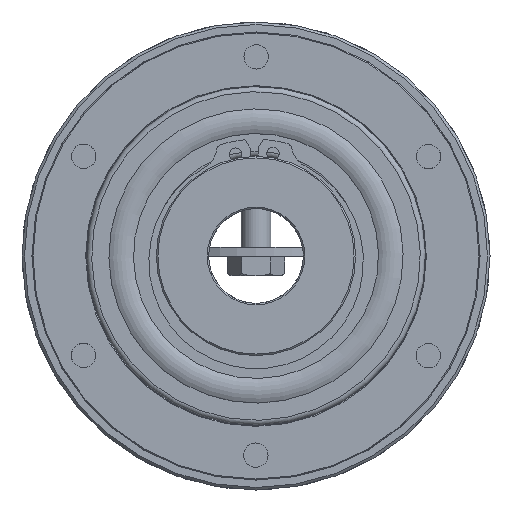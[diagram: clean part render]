
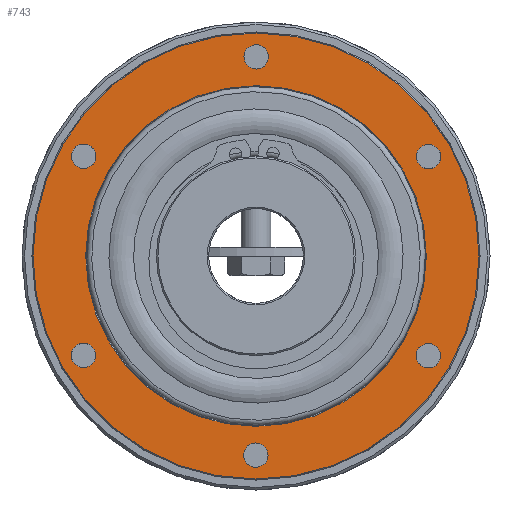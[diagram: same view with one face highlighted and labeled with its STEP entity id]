
A CAD part, left-side view. The second image highlights one B-rep face of the part: STEP entity #743.
In plain terms, the highlighted planar face has unit normal (-1, 0, 0).
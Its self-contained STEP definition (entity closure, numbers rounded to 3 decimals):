
#743 = ADVANCED_FACE( '', ( #1302, #1303, #1304, #1305, #1306, #1307, #1308, #1309 ), #1310, .F. );
#1302 = FACE_OUTER_BOUND( '', #1800, .T. );
#1303 = FACE_BOUND( '', #1801, .T. );
#1304 = FACE_BOUND( '', #1802, .T. );
#1305 = FACE_BOUND( '', #1803, .T. );
#1306 = FACE_BOUND( '', #1804, .T. );
#1307 = FACE_BOUND( '', #1805, .T. );
#1308 = FACE_BOUND( '', #1806, .T. );
#1309 = FACE_BOUND( '', #1807, .T. );
#1310 = PLANE( '', #1808 );
#1800 = EDGE_LOOP( '', ( #2812 ) );
#1801 = EDGE_LOOP( '', ( #2813 ) );
#1802 = EDGE_LOOP( '', ( #2814 ) );
#1803 = EDGE_LOOP( '', ( #2815 ) );
#1804 = EDGE_LOOP( '', ( #2816 ) );
#1805 = EDGE_LOOP( '', ( #2817 ) );
#1806 = EDGE_LOOP( '', ( #2818 ) );
#1807 = EDGE_LOOP( '', ( #2819 ) );
#1808 = AXIS2_PLACEMENT_3D( '', #2820, #2821, #2822 );
#2812 = ORIENTED_EDGE( '', *, *, #3566, .T. );
#2813 = ORIENTED_EDGE( '', *, *, #3567, .T. );
#2814 = ORIENTED_EDGE( '', *, *, #3568, .T. );
#2815 = ORIENTED_EDGE( '', *, *, #3569, .T. );
#2816 = ORIENTED_EDGE( '', *, *, #3570, .T. );
#2817 = ORIENTED_EDGE( '', *, *, #3571, .T. );
#2818 = ORIENTED_EDGE( '', *, *, #3572, .T. );
#2819 = ORIENTED_EDGE( '', *, *, #3573, .T. );
#2820 = CARTESIAN_POINT( '', ( -14.95, 45., 0. ) );
#2821 = DIRECTION( '', ( 1., 0., 0. ) );
#2822 = DIRECTION( '', ( 0., 1., 0. ) );
#3566 = EDGE_CURVE( '', #4054, #4054, #4055, .T. );
#3567 = EDGE_CURVE( '', #4056, #4056, #4057, .T. );
#3568 = EDGE_CURVE( '', #4058, #4058, #4059, .T. );
#3569 = EDGE_CURVE( '', #4060, #4060, #4061, .T. );
#3570 = EDGE_CURVE( '', #4062, #4062, #4063, .T. );
#3571 = EDGE_CURVE( '', #4064, #4064, #4065, .T. );
#3572 = EDGE_CURVE( '', #4066, #4066, #4067, .T. );
#3573 = EDGE_CURVE( '', #4068, #4068, #4069, .T. );
#4054 = VERTEX_POINT( '', #4648 );
#4055 = CIRCLE( '', #4649, 44.8 );
#4056 = VERTEX_POINT( '', #4650 );
#4057 = CIRCLE( '', #4651, 34.2 );
#4058 = VERTEX_POINT( '', #4652 );
#4059 = CIRCLE( '', #4653, 2.459 );
#4060 = VERTEX_POINT( '', #4654 );
#4061 = CIRCLE( '', #4655, 2.459 );
#4062 = VERTEX_POINT( '', #4656 );
#4063 = CIRCLE( '', #4657, 2.459 );
#4064 = VERTEX_POINT( '', #4658 );
#4065 = CIRCLE( '', #4659, 2.459 );
#4066 = VERTEX_POINT( '', #4660 );
#4067 = CIRCLE( '', #4661, 2.459 );
#4068 = VERTEX_POINT( '', #4662 );
#4069 = CIRCLE( '', #4663, 2.459 );
#4648 = CARTESIAN_POINT( '', ( -14.95, 0., -44.8 ) );
#4649 = AXIS2_PLACEMENT_3D( '', #5191, #5192, #5193 );
#4650 = CARTESIAN_POINT( '', ( -14.95, 0., -34.2 ) );
#4651 = AXIS2_PLACEMENT_3D( '', #5194, #5195, #5196 );
#4652 = CARTESIAN_POINT( '', ( -14.95, 36.77, 21.229 ) );
#4653 = AXIS2_PLACEMENT_3D( '', #5197, #5198, #5199 );
#4654 = CARTESIAN_POINT( '', ( -14.95, 36.77, -21.229 ) );
#4655 = AXIS2_PLACEMENT_3D( '', #5200, #5201, #5202 );
#4656 = CARTESIAN_POINT( '', ( -14.95, 0., -42.459 ) );
#4657 = AXIS2_PLACEMENT_3D( '', #5203, #5204, #5205 );
#4658 = CARTESIAN_POINT( '', ( -14.95, -36.77, -21.229 ) );
#4659 = AXIS2_PLACEMENT_3D( '', #5206, #5207, #5208 );
#4660 = CARTESIAN_POINT( '', ( -14.95, -36.77, 21.229 ) );
#4661 = AXIS2_PLACEMENT_3D( '', #5209, #5210, #5211 );
#4662 = CARTESIAN_POINT( '', ( -14.95, 0., 42.459 ) );
#4663 = AXIS2_PLACEMENT_3D( '', #5212, #5213, #5214 );
#5191 = CARTESIAN_POINT( '', ( -14.95, 0., 0. ) );
#5192 = DIRECTION( '', ( -1., 0., 0. ) );
#5193 = DIRECTION( '', ( 0., 0., -1. ) );
#5194 = CARTESIAN_POINT( '', ( -14.95, 0., 0. ) );
#5195 = DIRECTION( '', ( 1., 0., 0. ) );
#5196 = DIRECTION( '', ( 0., 0., -1. ) );
#5197 = CARTESIAN_POINT( '', ( -14.95, 34.641, 20. ) );
#5198 = DIRECTION( '', ( 1., 0., 0. ) );
#5199 = DIRECTION( '', ( 0., 0.866, 0.5 ) );
#5200 = CARTESIAN_POINT( '', ( -14.95, 34.641, -20. ) );
#5201 = DIRECTION( '', ( 1., 0., 0. ) );
#5202 = DIRECTION( '', ( 0., 0.866, -0.5 ) );
#5203 = CARTESIAN_POINT( '', ( -14.95, 0., -40. ) );
#5204 = DIRECTION( '', ( 1., 0., 0. ) );
#5205 = DIRECTION( '', ( 0., 0., -1. ) );
#5206 = CARTESIAN_POINT( '', ( -14.95, -34.641, -20. ) );
#5207 = DIRECTION( '', ( 1., 0., 0. ) );
#5208 = DIRECTION( '', ( 0., -0.866, -0.5 ) );
#5209 = CARTESIAN_POINT( '', ( -14.95, -34.641, 20. ) );
#5210 = DIRECTION( '', ( 1., 0., 0. ) );
#5211 = DIRECTION( '', ( 0., -0.866, 0.5 ) );
#5212 = CARTESIAN_POINT( '', ( -14.95, 0., 40. ) );
#5213 = DIRECTION( '', ( 1., 0., 0. ) );
#5214 = DIRECTION( '', ( 0., 0., 1. ) );
